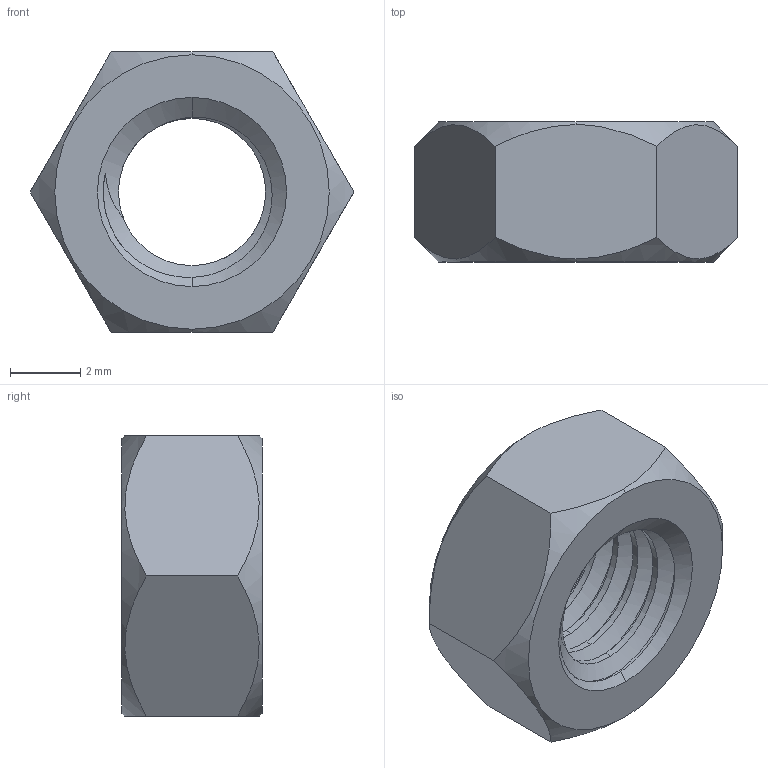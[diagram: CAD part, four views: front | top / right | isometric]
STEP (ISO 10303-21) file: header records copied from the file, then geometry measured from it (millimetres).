
FILE_DESCRIPTION (( 'STEP AP203' ), '1' );
FILE_NAME ('TAN-304RN-M5.STEP', '2026-08-20T13:34:08', ( '' ), ( '' ), 'SwSTEP 2.0', 'SolidWorks 2020', '' );
FILE_SCHEMA (( 'CONFIG_CONTROL_DESIGN' ));
Length unit declared in the file: millimetre
Products named in the file (1): TAN-304RN-M5
Bounding box: 9.24 x 4 x 8 mm (x, y, z)
Volume: 150.4 mm3; surface area: 261.9 mm2
Topology: 1 solids, 1 shells, 29 faces, 80 edges, 53 vertices
Faces by surface type: cone 9, cylinder 9, plane 8, bspline 3
Entity records: 2377 total; most frequent: CARTESIAN_POINT 1665, ORIENTED_EDGE 160, DIRECTION 99, EDGE_CURVE 80, VERTEX_POINT 53, AXIS2_PLACEMENT_3D 38, EDGE_LOOP 31, ADVANCED_FACE 29
